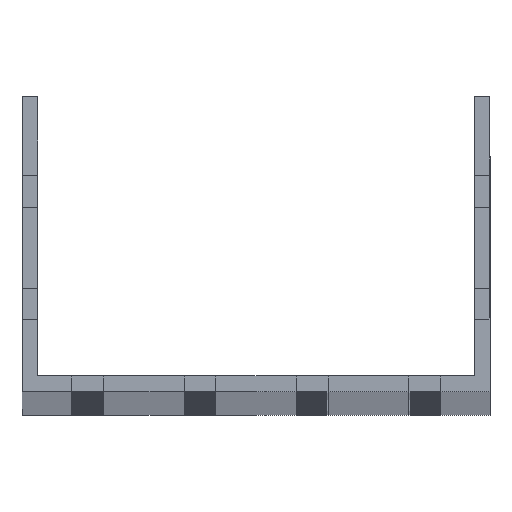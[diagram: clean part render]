
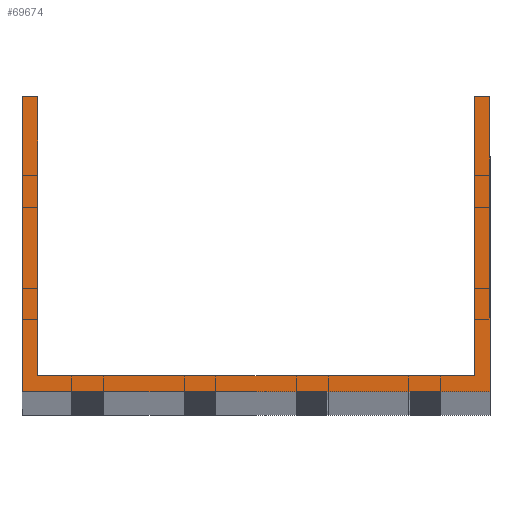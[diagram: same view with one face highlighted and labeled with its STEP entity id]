
A CAD part, top view. The second image highlights one B-rep face of the part: STEP entity #69674.
In plain terms, the highlighted planar face has unit normal (0, 0, 1).
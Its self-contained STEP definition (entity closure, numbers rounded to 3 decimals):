
#2411 = VECTOR ( 'NONE', #57440, 1000. ) ;
#2815 = VECTOR ( 'NONE', #59481, 1000. ) ;
#2968 = VECTOR ( 'NONE', #59405, 1000. ) ;
#3212 = CARTESIAN_POINT ( 'NONE',  ( 52., 65.5, 1500. ) ) ;
#3757 = EDGE_CURVE ( 'NONE', #26190, #23314, #53533, .T. ) ;
#4834 = EDGE_LOOP ( 'NONE', ( #74793, #18958, #36446, #47068, #76356, #70610, #48830, #36572 ) ) ;
#5535 = VECTOR ( 'NONE', #38732, 1000. ) ;
#6995 = VERTEX_POINT ( 'NONE', #39462 ) ;
#7810 = EDGE_CURVE ( 'NONE', #59364, #36867, #27744, .T. ) ;
#9052 = LINE ( 'NONE', #71799, #2815 ) ;
#9091 = VERTEX_POINT ( 'NONE', #16224 ) ;
#14102 = LINE ( 'NONE', #51039, #5535 ) ;
#14465 = DIRECTION ( 'NONE',  ( 1., 0., 0. ) ) ;
#15677 = CARTESIAN_POINT ( 'NONE',  ( 48.5, 65.5, 1500. ) ) ;
#16224 = CARTESIAN_POINT ( 'NONE',  ( -48.5, 65.5, 1500. ) ) ;
#18958 = ORIENTED_EDGE ( 'NONE', *, *, #46683, .T. ) ;
#19648 = PLANE ( 'NONE',  #53238 ) ;
#20036 = CARTESIAN_POINT ( 'NONE',  ( 0., 0., 1500. ) ) ;
#20821 = FACE_OUTER_BOUND ( 'NONE', #4834, .T. ) ;
#21392 = CARTESIAN_POINT ( 'NONE',  ( -52., 3.5, 1500. ) ) ;
#22170 = DIRECTION ( 'NONE',  ( 0., -1., 0. ) ) ;
#22336 = VECTOR ( 'NONE', #69710, 1000. ) ;
#22885 = CARTESIAN_POINT ( 'NONE',  ( -52., 0., 1500. ) ) ;
#23314 = VERTEX_POINT ( 'NONE', #22885 ) ;
#26190 = VERTEX_POINT ( 'NONE', #43134 ) ;
#27744 = LINE ( 'NONE', #21392, #38905 ) ;
#32338 = EDGE_CURVE ( 'NONE', #23314, #65919, #14102, .T. ) ;
#36446 = ORIENTED_EDGE ( 'NONE', *, *, #3757, .T. ) ;
#36572 = ORIENTED_EDGE ( 'NONE', *, *, #7810, .F. ) ;
#36867 = VERTEX_POINT ( 'NONE', #69927 ) ;
#38201 = VERTEX_POINT ( 'NONE', #3212 ) ;
#38732 = DIRECTION ( 'NONE',  ( 1., 0., 0. ) ) ;
#38905 = VECTOR ( 'NONE', #51981, 1000. ) ;
#39462 = CARTESIAN_POINT ( 'NONE',  ( 48.5, 65.5, 1500. ) ) ;
#40456 = CARTESIAN_POINT ( 'NONE',  ( -48.5, 3.5, 1500. ) ) ;
#40739 = LINE ( 'NONE', #64964, #2411 ) ;
#40991 = EDGE_CURVE ( 'NONE', #36867, #6995, #70101, .T. ) ;
#43134 = CARTESIAN_POINT ( 'NONE',  ( -52., 65.5, 1500. ) ) ;
#43862 = EDGE_CURVE ( 'NONE', #9091, #59364, #78424, .T. ) ;
#46683 = EDGE_CURVE ( 'NONE', #9091, #26190, #40739, .T. ) ;
#47068 = ORIENTED_EDGE ( 'NONE', *, *, #32338, .T. ) ;
#48830 = ORIENTED_EDGE ( 'NONE', *, *, #40991, .F. ) ;
#49010 = CARTESIAN_POINT ( 'NONE',  ( -48.5, 65.5, 1500. ) ) ;
#51039 = CARTESIAN_POINT ( 'NONE',  ( -52., 0., 1500. ) ) ;
#51981 = DIRECTION ( 'NONE',  ( 1., 0., 0. ) ) ;
#53238 = AXIS2_PLACEMENT_3D ( 'NONE', #20036, #68889, #14465 ) ;
#53533 = LINE ( 'NONE', #77369, #69091 ) ;
#56874 = VECTOR ( 'NONE', #66114, 1000. ) ;
#57440 = DIRECTION ( 'NONE',  ( -1., 0., 0. ) ) ;
#59364 = VERTEX_POINT ( 'NONE', #40456 ) ;
#59405 = DIRECTION ( 'NONE',  ( 0., 1., 0. ) ) ;
#59481 = DIRECTION ( 'NONE',  ( -1., 0., 0. ) ) ;
#62169 = CARTESIAN_POINT ( 'NONE',  ( 52., 0., 1500. ) ) ;
#64964 = CARTESIAN_POINT ( 'NONE',  ( -52., 65.5, 1500. ) ) ;
#65919 = VERTEX_POINT ( 'NONE', #62169 ) ;
#66114 = DIRECTION ( 'NONE',  ( 0., -1., 0. ) ) ;
#68889 = DIRECTION ( 'NONE',  ( 0., 0., 1. ) ) ;
#69091 = VECTOR ( 'NONE', #22170, 1000. ) ;
#69674 = ADVANCED_FACE ( 'NONE', ( #20821 ), #19648, .T. ) ;
#69710 = DIRECTION ( 'NONE',  ( 0., 1., 0. ) ) ;
#69927 = CARTESIAN_POINT ( 'NONE',  ( 48.5, 3.5, 1500. ) ) ;
#70101 = LINE ( 'NONE', #15677, #22336 ) ;
#70543 = LINE ( 'NONE', #76894, #2968 ) ;
#70610 = ORIENTED_EDGE ( 'NONE', *, *, #72322, .T. ) ;
#71799 = CARTESIAN_POINT ( 'NONE',  ( -52., 65.5, 1500. ) ) ;
#72322 = EDGE_CURVE ( 'NONE', #38201, #6995, #9052, .T. ) ;
#74083 = EDGE_CURVE ( 'NONE', #65919, #38201, #70543, .T. ) ;
#74793 = ORIENTED_EDGE ( 'NONE', *, *, #43862, .F. ) ;
#76356 = ORIENTED_EDGE ( 'NONE', *, *, #74083, .T. ) ;
#76894 = CARTESIAN_POINT ( 'NONE',  ( 52., 65.5, 1500. ) ) ;
#77369 = CARTESIAN_POINT ( 'NONE',  ( -52., 65.5, 1500. ) ) ;
#78424 = LINE ( 'NONE', #49010, #56874 ) ;
